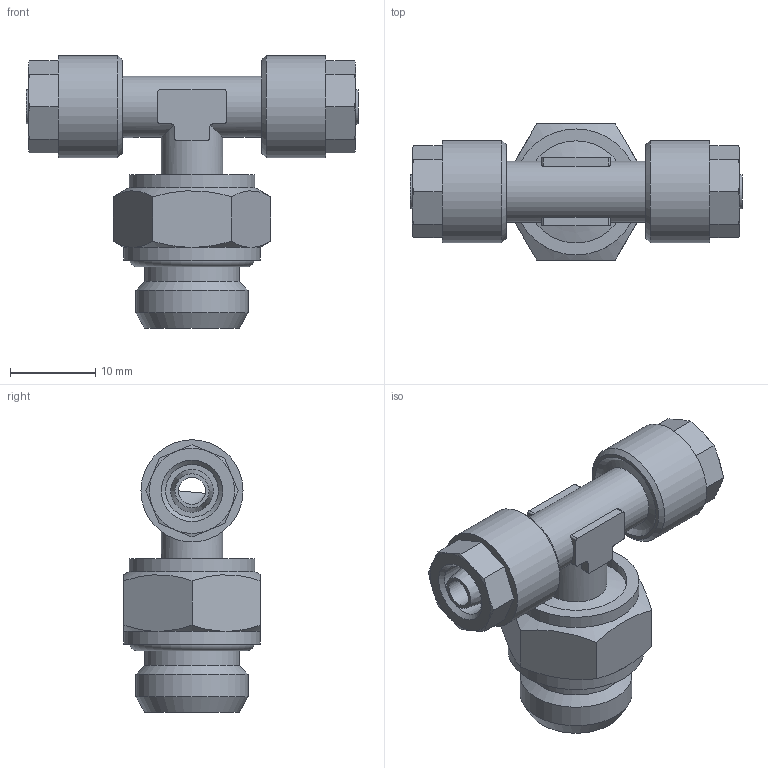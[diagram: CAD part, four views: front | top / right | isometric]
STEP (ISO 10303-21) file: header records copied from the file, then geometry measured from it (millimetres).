
FILE_DESCRIPTION(/* description */ (''),/* implementation_level */ '2;1');
FILE_NAME(/* name */ '12152_307DZ_64_G14_14.08.17',/* time_stamp */ '2017-08-14T10:28:24+02:00',/* author */ (''),/* organization */ (''),/* preprocessor_version */ 'ST-DEVELOPER v16.5',/* originating_system */ 'HiCAD 2016 2102.2 Build 618',/* authorisation */ '');
FILE_SCHEMA (('AUTOMOTIVE_DESIGN { 1 0 10303 214 1 1 1 1 }'));
Length unit declared in the file: millimetre
Products named in the file (6): Root; Gewindestück_1-4; OR 11.11X1.78; 17005; 12152
Assembly tree (5 placements, depth 2):
  Root
    Gewindestück_1-4
    OR 11.11X1.78
    17005
    17005
    12152
Bounding box: 39 x 16 x 32 mm (x, y, z)
Volume: 4836.9 mm3; surface area: 5377.3 mm2
Topology: 5 solids, 5 shells, 142 faces, 348 edges, 222 vertices
Faces by surface type: plane 58, cone 42, cylinder 37, torus 5
Full cylindrical faces by diameter (mm): 3.2 x2, 4.7 x2, 6.2 x2, 7.2 x2, 8 x1, 8.773 x2, 10 x2, 11.1 x1, 12 x4, 13.157 x1, 14.8 x1, 16 x1
Entity records: 9326 total; most frequent: CARTESIAN_POINT 3401, DIRECTION 714, PRESENTATION_STYLE_ASSIGNMENT 551, COLOUR_RGB 548, DRAUGHTING_PRE_DEFINED_CURVE_FONT 546, CURVE_STYLE 546, OVER_RIDING_STYLED_ITEM 546, ORIENTED_EDGE 546
